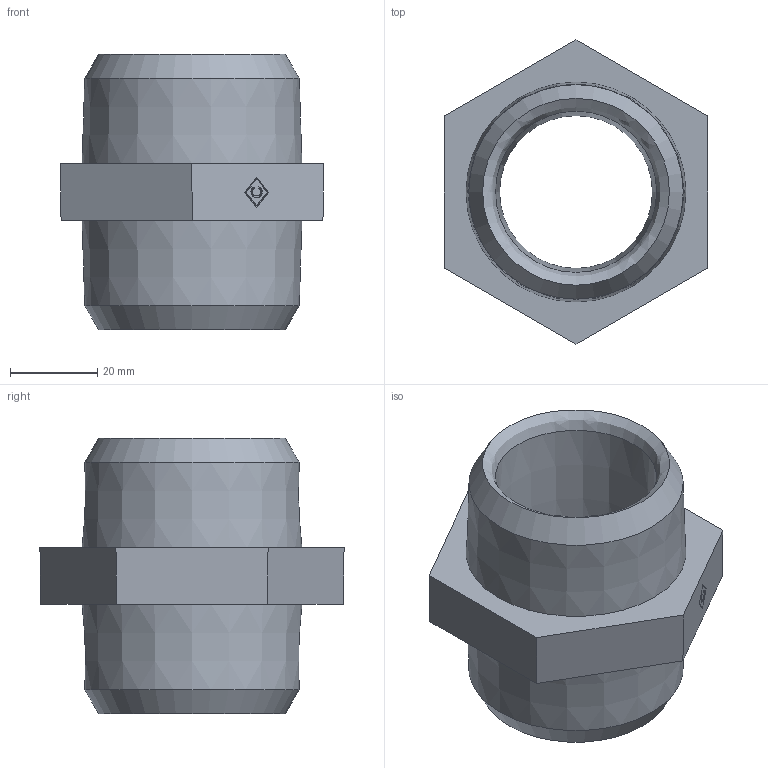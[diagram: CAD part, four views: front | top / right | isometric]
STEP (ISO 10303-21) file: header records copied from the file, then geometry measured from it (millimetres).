
FILE_DESCRIPTION((''),'2;1');
FILE_NAME('P:\Fastrack\53909_CRANE\Crane\Fig.144 Hexagon Nipple\New 1.50 inch\144-1.50.stp','2009-09-14T14:57:51',('btaylor'),(''),'Autodesk Inventor 2008','Autodesk Inventor 2008','');
FILE_SCHEMA(('AUTOMOTIVE_DESIGN { 1 0 10303 214 1 1 1 1 }'));
Length unit declared in the file: millimetre
Products named in the file (1): 144-1.50
Bounding box: 60.34 x 69.67 x 63 mm (x, y, z)
Volume: 69726.8 mm3; surface area: 20464.6 mm2
Topology: 1 solids, 1 shells, 37 faces, 92 edges, 60 vertices
Faces by surface type: plane 21, bspline 10, cone 6
Entity records: 1217 total; most frequent: CARTESIAN_POINT 400, ORIENTED_EDGE 162, DIRECTION 130, EDGE_CURVE 81, VERTEX_POINT 57, VECTOR 56, LINE 56, EDGE_LOOP 50
